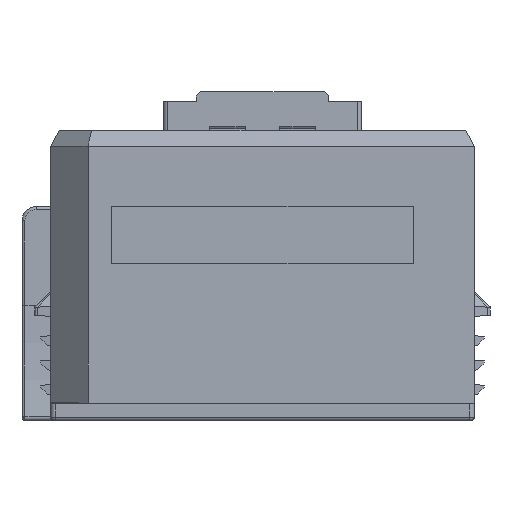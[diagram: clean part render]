
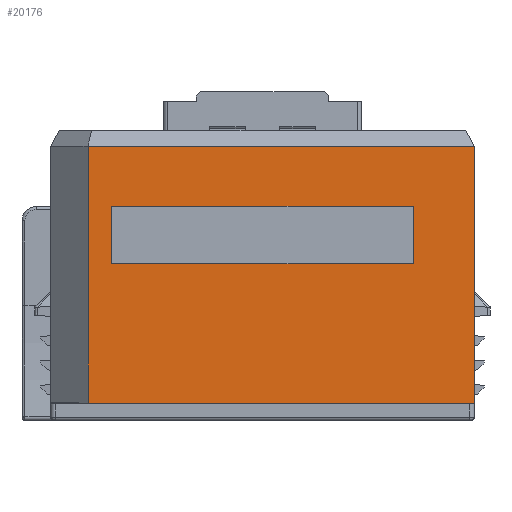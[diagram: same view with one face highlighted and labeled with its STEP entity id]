
A CAD part, front view. The second image highlights one B-rep face of the part: STEP entity #20176.
In plain terms, the highlighted planar face has unit normal (0, -1, 0).
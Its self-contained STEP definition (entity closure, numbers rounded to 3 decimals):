
#320=DIRECTION('',(0.,0.,1.));
#321=VECTOR('',#320,17.9);
#322=CARTESIAN_POINT('',(14.75,-26.,1.2));
#323=LINE('',#322,#321);
#805=DIRECTION('',(1.,0.,0.));
#806=VECTOR('',#805,26.9);
#807=CARTESIAN_POINT('',(-12.15,-26.,19.1));
#808=LINE('',#807,#806);
#809=DIRECTION('',(-1.,0.,0.));
#810=VECTOR('',#809,26.9);
#811=CARTESIAN_POINT('',(14.75,-26.,1.2));
#812=LINE('',#811,#810);
#813=DIRECTION('',(0.,0.,1.));
#814=VECTOR('',#813,4.);
#815=CARTESIAN_POINT('',(10.5,-26.,10.9));
#816=LINE('',#815,#814);
#817=DIRECTION('',(-1.,0.,0.));
#818=VECTOR('',#817,21.);
#819=CARTESIAN_POINT('',(10.5,-26.,14.9));
#820=LINE('',#819,#818);
#821=DIRECTION('',(0.,0.,-1.));
#822=VECTOR('',#821,4.);
#823=CARTESIAN_POINT('',(-10.5,-26.,14.9));
#824=LINE('',#823,#822);
#825=DIRECTION('',(1.,0.,0.));
#826=VECTOR('',#825,21.);
#827=CARTESIAN_POINT('',(-10.5,-26.,10.9));
#828=LINE('',#827,#826);
#12319=DIRECTION('',(0.,0.,-1.));
#12320=VECTOR('',#12319,17.9);
#12321=CARTESIAN_POINT('',(-12.15,-26.,19.1));
#12322=LINE('',#12321,#12320);
#15080=CARTESIAN_POINT('',(-12.15,-26.,19.1));
#15082=VERTEX_POINT('',#15080);
#18814=CARTESIAN_POINT('',(-12.15,-26.,1.2));
#18815=VERTEX_POINT('',#18814);
#19323=CARTESIAN_POINT('',(14.75,-26.,19.1));
#19325=VERTEX_POINT('',#19323);
#19326=CARTESIAN_POINT('',(14.75,-26.,1.2));
#19327=VERTEX_POINT('',#19326);
#19336=CARTESIAN_POINT('',(10.5,-26.,10.9));
#19337=CARTESIAN_POINT('',(10.5,-26.,14.9));
#19338=VERTEX_POINT('',#19336);
#19339=VERTEX_POINT('',#19337);
#19340=CARTESIAN_POINT('',(-10.5,-26.,14.9));
#19341=VERTEX_POINT('',#19340);
#19342=CARTESIAN_POINT('',(-10.5,-26.,10.9));
#19343=VERTEX_POINT('',#19342);
#20153=CARTESIAN_POINT('',(-14.75,-26.,0.));
#20154=DIRECTION('',(0.,-1.,0.));
#20155=DIRECTION('',(1.,0.,0.));
#20156=AXIS2_PLACEMENT_3D('',#20153,#20154,#20155);
#20157=PLANE('',#20156);
#20159=ORIENTED_EDGE('',*,*,#20158,.T.);
#20160=ORIENTED_EDGE('',*,*,#19828,.F.);
#20161=ORIENTED_EDGE('',*,*,#20130,.T.);
#20163=ORIENTED_EDGE('',*,*,#20162,.F.);
#20164=EDGE_LOOP('',(#20159,#20160,#20161,#20163));
#20165=FACE_OUTER_BOUND('',#20164,.F.);
#20167=ORIENTED_EDGE('',*,*,#20166,.T.);
#20169=ORIENTED_EDGE('',*,*,#20168,.T.);
#20171=ORIENTED_EDGE('',*,*,#20170,.T.);
#20173=ORIENTED_EDGE('',*,*,#20172,.T.);
#20174=EDGE_LOOP('',(#20167,#20169,#20171,#20173));
#20175=FACE_BOUND('',#20174,.F.);
#20176=ADVANCED_FACE('',(#20165,#20175),#20157,.T.);
#19828=EDGE_CURVE('',#19327,#19325,#323,.T.);
#20130=EDGE_CURVE('',#19327,#18815,#812,.T.);
#20158=EDGE_CURVE('',#15082,#19325,#808,.T.);
#20162=EDGE_CURVE('',#15082,#18815,#12322,.T.);
#20166=EDGE_CURVE('',#19338,#19339,#816,.T.);
#20168=EDGE_CURVE('',#19339,#19341,#820,.T.);
#20170=EDGE_CURVE('',#19341,#19343,#824,.T.);
#20172=EDGE_CURVE('',#19343,#19338,#828,.T.);
